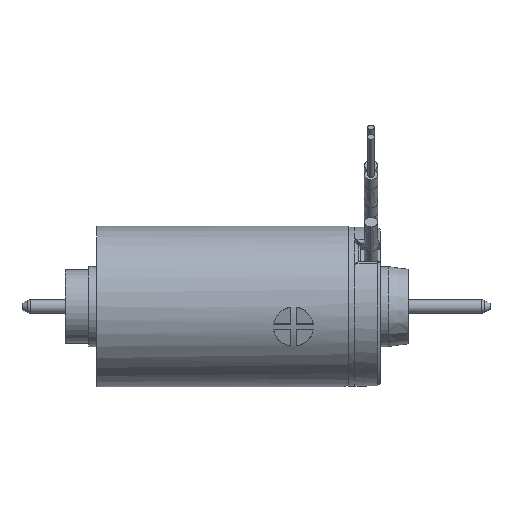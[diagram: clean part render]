
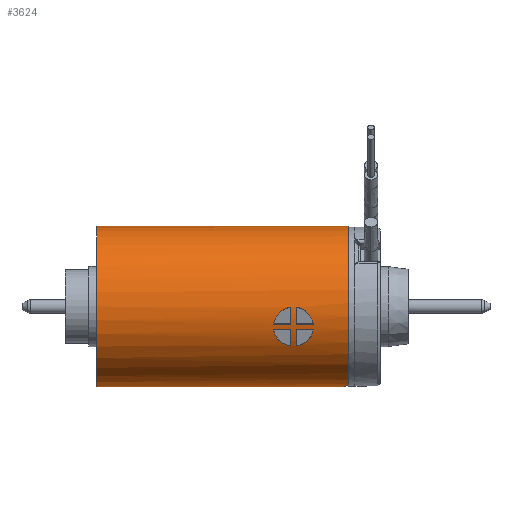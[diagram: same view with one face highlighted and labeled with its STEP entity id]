
A CAD part, top view. The second image highlights one B-rep face of the part: STEP entity #3624.
In plain terms, the highlighted cylindrical face has radius 6 mm (diameter 12 mm), a partial arc.
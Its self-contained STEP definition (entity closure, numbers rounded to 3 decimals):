
#1169=CARTESIAN_POINT('',(18.4,-6.,0.));
#1170=CARTESIAN_POINT('',(18.535,-6.,0.508));
#1171=CARTESIAN_POINT('',(18.669,-5.937,1.008));
#1172=CARTESIAN_POINT('',(18.8,-5.809,1.5));
#1177=DIRECTION('',(-1.,0.,0.));
#1178=VECTOR('',#1177,18.4);
#1179=CARTESIAN_POINT('',(18.4,-6.,0.));
#1180=LINE('',#1179,#1178);
#1184=DIRECTION('',(-1.,0.,0.));
#1185=VECTOR('',#1184,18.8);
#1186=CARTESIAN_POINT('',(18.8,6.,0.));
#1187=LINE('',#1186,#1185);
#1191=CARTESIAN_POINT('',(18.8,0.,0.));
#1192=DIRECTION('',(1.,0.,0.));
#1193=DIRECTION('',(0.,1.,0.));
#1194=AXIS2_PLACEMENT_3D('',#1191,#1192,#1193);
#1199=CARTESIAN_POINT('',(14.9,0.,0.));
#1200=DIRECTION('',(-1.,0.,0.));
#1201=DIRECTION('',(0.,-0.226,0.974));
#1202=AXIS2_PLACEMENT_3D('',#1199,#1200,#1201);
#1207=DIRECTION('',(-1.,0.,0.));
#1208=VECTOR('',#1207,1.287);
#1209=CARTESIAN_POINT('',(16.187,-1.359,5.844));
#1210=LINE('',#1209,#1208);
#1214=CARTESIAN_POINT('',(16.187,-1.359,5.844));
#1215=CARTESIAN_POINT('',(16.169,-1.232,5.874));
#1216=CARTESIAN_POINT('',(16.102,-0.989,
5.922));
#1217=CARTESIAN_POINT('',(15.905,-0.644,
5.968));
#1218=CARTESIAN_POINT('',(15.623,-0.358,
5.991));
#1219=CARTESIAN_POINT('',(15.277,-0.155,
5.999));
#1220=CARTESIAN_POINT('',(15.03,-0.087,
5.999));
#1221=CARTESIAN_POINT('',(14.9,-0.069,6.));
#1226=CARTESIAN_POINT('',(14.9,0.,0.));
#1227=DIRECTION('',(-1.,0.,0.));
#1228=DIRECTION('',(0.,-0.49,0.872));
#1229=AXIS2_PLACEMENT_3D('',#1226,#1227,#1228);
#1234=CARTESIAN_POINT('',(14.9,-2.94,5.23));
#1235=CARTESIAN_POINT('',(15.03,-2.925,5.239));
#1236=CARTESIAN_POINT('',(15.277,-2.865,5.273));
#1237=CARTESIAN_POINT('',(15.623,-2.686,5.367));
#1238=CARTESIAN_POINT('',(15.905,-2.427,5.491));
#1239=CARTESIAN_POINT('',(16.102,-2.105,5.623));
#1240=CARTESIAN_POINT('',(16.169,-1.87,5.703));
#1241=CARTESIAN_POINT('',(16.187,-1.745,5.741));
#1246=DIRECTION('',(-1.,0.,0.));
#1247=VECTOR('',#1246,1.287);
#1248=CARTESIAN_POINT('',(16.187,-1.745,5.741));
#1249=LINE('',#1248,#1247);
#1253=CARTESIAN_POINT('',(14.5,0.,0.));
#1254=DIRECTION('',(-1.,0.,0.));
#1255=DIRECTION('',(0.,-0.49,0.872));
#1256=AXIS2_PLACEMENT_3D('',#1253,#1254,#1255);
#1261=DIRECTION('',(-1.,0.,0.));
#1262=VECTOR('',#1261,1.287);
#1263=CARTESIAN_POINT('',(14.5,-1.745,5.741));
#1264=LINE('',#1263,#1262);
#1268=CARTESIAN_POINT('',(13.213,-1.745,5.741));
#1269=CARTESIAN_POINT('',(13.231,-1.87,5.703));
#1270=CARTESIAN_POINT('',(13.298,-2.105,5.623));
#1271=CARTESIAN_POINT('',(13.495,-2.427,5.491));
#1272=CARTESIAN_POINT('',(13.777,-2.686,5.367));
#1273=CARTESIAN_POINT('',(14.123,-2.865,5.273));
#1274=CARTESIAN_POINT('',(14.37,-2.925,5.239));
#1275=CARTESIAN_POINT('',(14.5,-2.94,5.23));
#1280=CARTESIAN_POINT('',(14.5,0.,0.));
#1281=DIRECTION('',(-1.,0.,0.));
#1282=DIRECTION('',(0.,-0.226,0.974));
#1283=AXIS2_PLACEMENT_3D('',#1280,#1281,#1282);
#1288=CARTESIAN_POINT('',(14.5,-0.069,6.));
#1289=CARTESIAN_POINT('',(14.37,-0.087,
5.999));
#1290=CARTESIAN_POINT('',(14.123,-0.155,
5.999));
#1291=CARTESIAN_POINT('',(13.777,-0.358,
5.991));
#1292=CARTESIAN_POINT('',(13.495,-0.644,
5.968));
#1293=CARTESIAN_POINT('',(13.298,-0.989,
5.922));
#1294=CARTESIAN_POINT('',(13.231,-1.232,5.874));
#1295=CARTESIAN_POINT('',(13.213,-1.359,5.844));
#1300=DIRECTION('',(-1.,0.,0.));
#1301=VECTOR('',#1300,1.287);
#1302=CARTESIAN_POINT('',(14.5,-1.359,5.844));
#1303=LINE('',#1302,#1301);
#1333=CARTESIAN_POINT('',(18.4,-6.,0.));
#1382=CARTESIAN_POINT('',(0.,0.,0.));
#1383=DIRECTION('',(1.,0.,0.));
#1384=DIRECTION('',(0.,1.,0.));
#1385=AXIS2_PLACEMENT_3D('',#1382,#1383,#1384);
#2243=CARTESIAN_POINT('',(0.,6.,0.));
#2244=CARTESIAN_POINT('',(0.,-6.,0.));
#2245=VERTEX_POINT('',#2243);
#2246=VERTEX_POINT('',#2244);
#2283=CARTESIAN_POINT('',(14.9,-1.359,5.844));
#2284=CARTESIAN_POINT('',(14.9,-0.069,6.));
#2285=VERTEX_POINT('',#2283);
#2286=VERTEX_POINT('',#2284);
#2287=VERTEX_POINT('',#1214);
#2288=CARTESIAN_POINT('',(14.9,-2.94,5.23));
#2289=CARTESIAN_POINT('',(14.9,-1.745,5.741));
#2290=VERTEX_POINT('',#2288);
#2291=VERTEX_POINT('',#2289);
#2292=VERTEX_POINT('',#1241);
#2293=CARTESIAN_POINT('',(14.5,-2.94,5.23));
#2294=CARTESIAN_POINT('',(14.5,-1.745,5.741));
#2295=VERTEX_POINT('',#2293);
#2296=VERTEX_POINT('',#2294);
#2297=VERTEX_POINT('',#1268);
#2298=CARTESIAN_POINT('',(14.5,-1.359,5.844));
#2299=CARTESIAN_POINT('',(14.5,-0.069,6.));
#2300=VERTEX_POINT('',#2298);
#2301=VERTEX_POINT('',#2299);
#2302=VERTEX_POINT('',#1295);
#2311=CARTESIAN_POINT('',(18.8,6.,0.));
#2312=VERTEX_POINT('',#2311);
#2314=VERTEX_POINT('',#1333);
#2315=VERTEX_POINT('',#1172);
#3577=CARTESIAN_POINT('',(20.698,0.,0.));
#3578=DIRECTION('',(-1.,0.,0.));
#3579=DIRECTION('',(0.,1.,0.));
#3580=AXIS2_PLACEMENT_3D('',#3577,#3578,#3579);
#3581=CYLINDRICAL_SURFACE('',#3580,6.);
#3582=ORIENTED_EDGE('',*,*,#3458,.F.);
#3584=ORIENTED_EDGE('',*,*,#3583,.T.);
#3586=ORIENTED_EDGE('',*,*,#3585,.F.);
#3588=ORIENTED_EDGE('',*,*,#3587,.F.);
#3589=ORIENTED_EDGE('',*,*,#3570,.T.);
#3590=EDGE_LOOP('',(#3582,#3584,#3586,#3588,#3589));
#3591=FACE_OUTER_BOUND('',#3590,.F.);
#3593=ORIENTED_EDGE('',*,*,#3592,.F.);
#3595=ORIENTED_EDGE('',*,*,#3594,.F.);
#3597=ORIENTED_EDGE('',*,*,#3596,.T.);
#3598=EDGE_LOOP('',(#3593,#3595,#3597));
#3599=FACE_BOUND('',#3598,.F.);
#3601=ORIENTED_EDGE('',*,*,#3600,.F.);
#3603=ORIENTED_EDGE('',*,*,#3602,.T.);
#3605=ORIENTED_EDGE('',*,*,#3604,.T.);
#3606=EDGE_LOOP('',(#3601,#3603,#3605));
#3607=FACE_BOUND('',#3606,.F.);
#3609=ORIENTED_EDGE('',*,*,#3608,.T.);
#3611=ORIENTED_EDGE('',*,*,#3610,.T.);
#3613=ORIENTED_EDGE('',*,*,#3612,.T.);
#3614=EDGE_LOOP('',(#3609,#3611,#3613));
#3615=FACE_BOUND('',#3614,.F.);
#3617=ORIENTED_EDGE('',*,*,#3616,.T.);
#3619=ORIENTED_EDGE('',*,*,#3618,.T.);
#3621=ORIENTED_EDGE('',*,*,#3620,.F.);
#3622=EDGE_LOOP('',(#3617,#3619,#3621));
#3623=FACE_BOUND('',#3622,.F.);
#3624=ADVANCED_FACE('',(#3591,#3599,#3607,#3615,#3623),#3581,.T.);
#1173=B_SPLINE_CURVE_WITH_KNOTS('',3,(#1169,#1170,#1171,#1172),.UNSPECIFIED.,
.F.,.F.,(4,4),(0.,1.),.UNSPECIFIED.);
#1195=CIRCLE('',#1194,6.);
#1203=CIRCLE('',#1202,6.);
#1222=B_SPLINE_CURVE_WITH_KNOTS('',3,(#1214,#1215,#1216,#1217,#1218,#1219,#1220,
#1221),.UNSPECIFIED.,.F.,.F.,(4,1,1,1,1,4),(0.,0.2,0.4,0.6,0.8,1.),
.UNSPECIFIED.);
#1230=CIRCLE('',#1229,6.);
#1242=B_SPLINE_CURVE_WITH_KNOTS('',3,(#1234,#1235,#1236,#1237,#1238,#1239,#1240,
#1241),.UNSPECIFIED.,.F.,.F.,(4,1,1,1,1,4),(0.,0.2,0.4,0.6,0.8,1.),
.UNSPECIFIED.);
#1257=CIRCLE('',#1256,6.);
#1276=B_SPLINE_CURVE_WITH_KNOTS('',3,(#1268,#1269,#1270,#1271,#1272,#1273,#1274,
#1275),.UNSPECIFIED.,.F.,.F.,(4,1,1,1,1,4),(0.,0.2,0.4,0.6,0.8,1.),
.UNSPECIFIED.);
#1284=CIRCLE('',#1283,6.);
#1296=B_SPLINE_CURVE_WITH_KNOTS('',3,(#1288,#1289,#1290,#1291,#1292,#1293,#1294,
#1295),.UNSPECIFIED.,.F.,.F.,(4,1,1,1,1,4),(0.,0.2,0.4,0.6,0.8,1.),
.UNSPECIFIED.);
#1386=CIRCLE('',#1385,6.);
#3458=EDGE_CURVE('',#2314,#2315,#1173,.T.);
#3570=EDGE_CURVE('',#2312,#2315,#1195,.T.);
#3583=EDGE_CURVE('',#2314,#2246,#1180,.T.);
#3585=EDGE_CURVE('',#2245,#2246,#1386,.T.);
#3587=EDGE_CURVE('',#2312,#2245,#1187,.T.);
#3592=EDGE_CURVE('',#2285,#2286,#1203,.T.);
#3594=EDGE_CURVE('',#2287,#2285,#1210,.T.);
#3596=EDGE_CURVE('',#2287,#2286,#1222,.T.);
#3600=EDGE_CURVE('',#2290,#2291,#1230,.T.);
#3602=EDGE_CURVE('',#2290,#2292,#1242,.T.);
#3604=EDGE_CURVE('',#2292,#2291,#1249,.T.);
#3608=EDGE_CURVE('',#2295,#2296,#1257,.T.);
#3610=EDGE_CURVE('',#2296,#2297,#1264,.T.);
#3612=EDGE_CURVE('',#2297,#2295,#1276,.T.);
#3616=EDGE_CURVE('',#2300,#2301,#1284,.T.);
#3618=EDGE_CURVE('',#2301,#2302,#1296,.T.);
#3620=EDGE_CURVE('',#2300,#2302,#1303,.T.);
